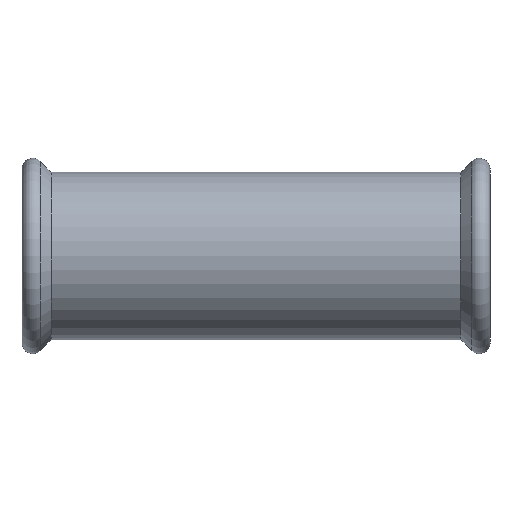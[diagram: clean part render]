
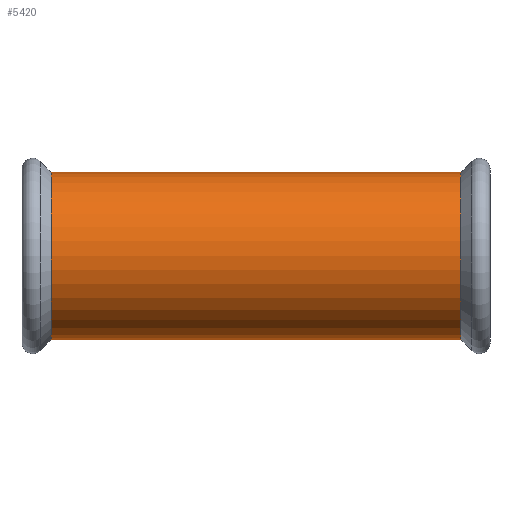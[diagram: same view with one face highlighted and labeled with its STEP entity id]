
A CAD part, top view. The second image highlights one B-rep face of the part: STEP entity #5420.
In plain terms, the highlighted cylindrical face has radius 46.85 mm (diameter 93.7 mm), a partial arc.
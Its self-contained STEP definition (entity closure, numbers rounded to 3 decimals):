
#1620=CARTESIAN_POINT('',(54.615,-46.85,0.));
#1630=VERTEX_POINT('',#1620);
#1810=CARTESIAN_POINT('',(54.615,46.85,0.))
;
#1820=VERTEX_POINT('',#1810);
#1850=CARTESIAN_POINT('',(54.615,0.,0.));
#1860=DIRECTION('',(1.,0.,0.));
#1870=DIRECTION('',(0.,1.,0.));
#1880=AXIS2_PLACEMENT_3D('',#1850,#1860,#1870);
#1890=CIRCLE('',#1880,46.85);
#2590=CARTESIAN_POINT('',(45.44,0.,0.));
#2600=DIRECTION('',(-1.,0.,0.));
#2610=DIRECTION('',(0.,1.,0.));
#2620=AXIS2_PLACEMENT_3D('',#2590,#2600,#2610);
#2630=CYLINDRICAL_SURFACE('',#2620,46.85);
#2640=CARTESIAN_POINT('',(45.44,-46.85,0.)
);
#2650=DIRECTION('',(-1.,0.,0.));
#2660=VECTOR('',#2650,1.);
#2670=LINE('',#2640,#2660);
#2680=CARTESIAN_POINT('',(-174.615,-46.85,0.
));
#2690=VERTEX_POINT('',#2680);
#2700=EDGE_CURVE('',#1630,#2690,#2670,.T.);
#2730=CARTESIAN_POINT('',(45.44,46.85,0.));
#2740=DIRECTION('',(-1.,0.,0.));
#2750=VECTOR('',#2740,1.);
#2760=LINE('',#2730,#2750);
#2770=CARTESIAN_POINT('',(-174.615,46.85,0.));
#2780=VERTEX_POINT('',#2770);
#2790=EDGE_CURVE('',#1820,#2780,#2760,.T.);
#2810=CARTESIAN_POINT('',(-174.615,0.,0.));
#2820=DIRECTION('',(-1.,0.,0.));
#2830=DIRECTION('',(0.,-1.,0.));
#2840=AXIS2_PLACEMENT_3D('',#2810,#2820,#2830);
#2850=CIRCLE('',#2840,46.85);
#5050=EDGE_CURVE('',#2690,#2780,#2850,.T.);
#5350=EDGE_CURVE('',#1820,#1630,#1890,.T.);
#5360=ORIENTED_EDGE('',*,*,#5350,.F.);
#5370=ORIENTED_EDGE('',*,*,#2700,.F.);
#5380=ORIENTED_EDGE('',*,*,#5050,.F.);
#5390=ORIENTED_EDGE('',*,*,#2790,.T.);
#5400=EDGE_LOOP('',(#5390,#5380,#5370,#5360));
#5410=FACE_OUTER_BOUND('',#5400,.T.);
#5420=ADVANCED_FACE('',(#5410),#2630,.T.);
